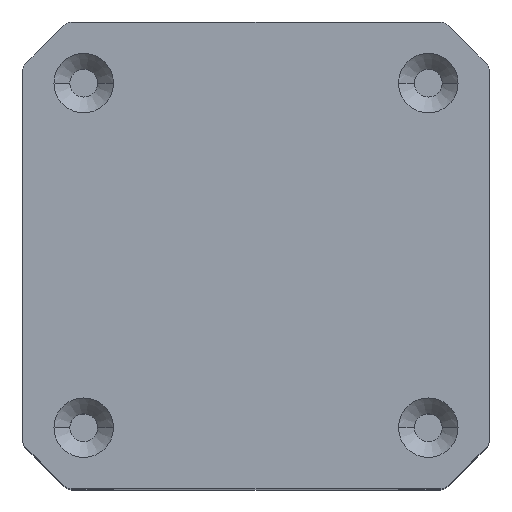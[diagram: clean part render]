
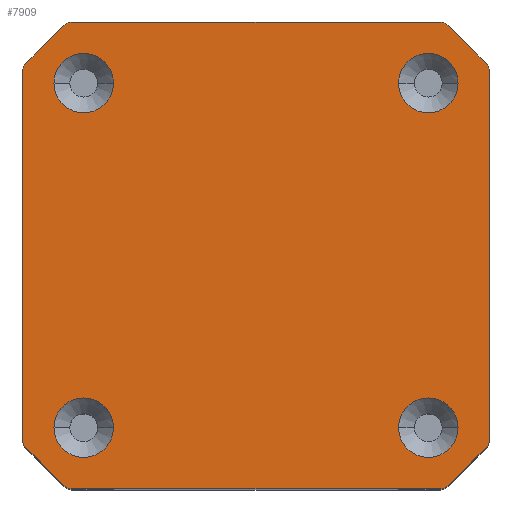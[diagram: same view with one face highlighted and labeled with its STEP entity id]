
A CAD part, top view. The second image highlights one B-rep face of the part: STEP entity #7909.
In plain terms, the highlighted planar face has unit normal (0, 0, 1).
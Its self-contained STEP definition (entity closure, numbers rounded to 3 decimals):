
#125=CARTESIAN_POINT('',(5.5,36.5,60.));
#126=DIRECTION('',(0.,0.,-1.));
#127=DIRECTION('',(-1.,0.,0.));
#128=AXIS2_PLACEMENT_3D('',#125,#126,#127);
#130=CARTESIAN_POINT('',(5.5,36.5,60.));
#131=DIRECTION('',(0.,0.,-1.));
#132=DIRECTION('',(1.,0.,0.));
#133=AXIS2_PLACEMENT_3D('',#130,#131,#132);
#135=CARTESIAN_POINT('',(36.5,36.5,60.));
#136=DIRECTION('',(0.,0.,-1.));
#137=DIRECTION('',(-1.,0.,0.));
#138=AXIS2_PLACEMENT_3D('',#135,#136,#137);
#140=CARTESIAN_POINT('',(36.5,36.5,60.));
#141=DIRECTION('',(0.,0.,-1.));
#142=DIRECTION('',(1.,0.,0.));
#143=AXIS2_PLACEMENT_3D('',#140,#141,#142);
#145=CARTESIAN_POINT('',(5.5,5.5,60.));
#146=DIRECTION('',(0.,0.,-1.));
#147=DIRECTION('',(-1.,0.,0.));
#148=AXIS2_PLACEMENT_3D('',#145,#146,#147);
#150=CARTESIAN_POINT('',(5.5,5.5,60.));
#151=DIRECTION('',(0.,0.,-1.));
#152=DIRECTION('',(1.,0.,0.));
#153=AXIS2_PLACEMENT_3D('',#150,#151,#152);
#155=CARTESIAN_POINT('',(36.5,5.5,60.));
#156=DIRECTION('',(0.,0.,-1.));
#157=DIRECTION('',(-1.,0.,0.));
#158=AXIS2_PLACEMENT_3D('',#155,#156,#157);
#160=CARTESIAN_POINT('',(36.5,5.5,60.));
#161=DIRECTION('',(0.,0.,-1.));
#162=DIRECTION('',(1.,0.,0.));
#163=AXIS2_PLACEMENT_3D('',#160,#161,#162);
#165=DIRECTION('',(-0.707,-0.707,0.));
#166=VECTOR('',#165,4.828);
#167=CARTESIAN_POINT('',(3.707,41.707,60.));
#168=LINE('',#167,#166);
#169=CARTESIAN_POINT('',(4.414,41.,60.));
#170=DIRECTION('',(0.,0.,1.));
#171=DIRECTION('',(0.,1.,0.));
#172=AXIS2_PLACEMENT_3D('',#169,#170,#171);
#174=DIRECTION('',(-1.,0.,0.));
#175=VECTOR('',#174,33.172);
#176=CARTESIAN_POINT('',(37.586,42.,60.));
#177=LINE('',#176,#175);
#178=CARTESIAN_POINT('',(37.586,41.,60.));
#179=DIRECTION('',(0.,0.,1.));
#180=DIRECTION('',(0.707,0.707,0.));
#181=AXIS2_PLACEMENT_3D('',#178,#179,#180);
#183=DIRECTION('',(-0.707,0.707,0.));
#184=VECTOR('',#183,4.828);
#185=CARTESIAN_POINT('',(41.707,38.293,60.));
#186=LINE('',#185,#184);
#187=CARTESIAN_POINT('',(41.,37.586,60.));
#188=DIRECTION('',(0.,0.,1.));
#189=DIRECTION('',(1.,0.,0.));
#190=AXIS2_PLACEMENT_3D('',#187,#188,#189);
#192=DIRECTION('',(0.,1.,0.));
#193=VECTOR('',#192,33.172);
#194=CARTESIAN_POINT('',(42.,4.414,60.));
#195=LINE('',#194,#193);
#196=CARTESIAN_POINT('',(41.,4.414,60.));
#197=DIRECTION('',(0.,0.,1.));
#198=DIRECTION('',(0.707,-0.707,0.));
#199=AXIS2_PLACEMENT_3D('',#196,#197,#198);
#201=DIRECTION('',(0.707,0.707,0.));
#202=VECTOR('',#201,4.828);
#203=CARTESIAN_POINT('',(38.293,0.293,60.));
#204=LINE('',#203,#202);
#205=CARTESIAN_POINT('',(37.586,1.,60.));
#206=DIRECTION('',(0.,0.,1.));
#207=DIRECTION('',(0.,-1.,0.));
#208=AXIS2_PLACEMENT_3D('',#205,#206,#207);
#210=DIRECTION('',(1.,0.,0.));
#211=VECTOR('',#210,33.172);
#212=CARTESIAN_POINT('',(4.414,0.,60.));
#213=LINE('',#212,#211);
#214=CARTESIAN_POINT('',(4.414,1.,60.));
#215=DIRECTION('',(0.,0.,1.));
#216=DIRECTION('',(-0.707,-0.707,0.));
#217=AXIS2_PLACEMENT_3D('',#214,#215,#216);
#219=DIRECTION('',(0.707,-0.707,0.));
#220=VECTOR('',#219,4.828);
#221=CARTESIAN_POINT('',(0.293,3.707,60.));
#222=LINE('',#221,#220);
#223=CARTESIAN_POINT('',(1.,4.414,60.));
#224=DIRECTION('',(0.,0.,1.));
#225=DIRECTION('',(-1.,0.,0.));
#226=AXIS2_PLACEMENT_3D('',#223,#224,#225);
#228=DIRECTION('',(0.,-1.,0.));
#229=VECTOR('',#228,33.172);
#230=CARTESIAN_POINT('',(0.,37.586,60.));
#231=LINE('',#230,#229);
#232=CARTESIAN_POINT('',(1.,37.586,60.));
#233=DIRECTION('',(0.,0.,1.));
#234=DIRECTION('',(-0.707,0.707,0.));
#235=AXIS2_PLACEMENT_3D('',#232,#233,#234);
#6646=CARTESIAN_POINT('',(3.707,41.707,60.));
#6647=CARTESIAN_POINT('',(0.293,38.293,60.));
#6648=VERTEX_POINT('',#6646);
#6649=VERTEX_POINT('',#6647);
#6650=CARTESIAN_POINT('',(0.,37.586,60.));
#6651=VERTEX_POINT('',#6650);
#6652=CARTESIAN_POINT('',(0.,4.414,60.));
#6653=VERTEX_POINT('',#6652);
#6654=CARTESIAN_POINT('',(0.293,3.707,60.));
#6655=VERTEX_POINT('',#6654);
#6656=CARTESIAN_POINT('',(3.707,0.293,60.));
#6657=VERTEX_POINT('',#6656);
#6658=CARTESIAN_POINT('',(4.414,0.,60.));
#6659=VERTEX_POINT('',#6658);
#6660=CARTESIAN_POINT('',(37.586,0.,60.));
#6661=VERTEX_POINT('',#6660);
#6662=CARTESIAN_POINT('',(38.293,0.293,60.));
#6663=VERTEX_POINT('',#6662);
#6664=CARTESIAN_POINT('',(41.707,3.707,60.));
#6665=VERTEX_POINT('',#6664);
#6666=CARTESIAN_POINT('',(42.,4.414,60.));
#6667=VERTEX_POINT('',#6666);
#6668=CARTESIAN_POINT('',(42.,37.586,60.));
#6669=VERTEX_POINT('',#6668);
#6670=CARTESIAN_POINT('',(41.707,38.293,60.));
#6671=VERTEX_POINT('',#6670);
#6672=CARTESIAN_POINT('',(38.293,41.707,60.));
#6673=VERTEX_POINT('',#6672);
#6674=CARTESIAN_POINT('',(37.586,42.,60.));
#6675=VERTEX_POINT('',#6674);
#6676=CARTESIAN_POINT('',(4.414,42.,60.));
#6677=VERTEX_POINT('',#6676);
#7602=CARTESIAN_POINT('',(8.174,36.5,60.));
#7603=VERTEX_POINT('',#7602);
#7604=CARTESIAN_POINT('',(2.826,36.5,60.));
#7605=VERTEX_POINT('',#7604);
#7606=CARTESIAN_POINT('',(39.174,36.5,60.));
#7607=VERTEX_POINT('',#7606);
#7608=CARTESIAN_POINT('',(33.826,36.5,60.));
#7609=VERTEX_POINT('',#7608);
#7610=CARTESIAN_POINT('',(8.174,5.5,60.));
#7611=VERTEX_POINT('',#7610);
#7612=CARTESIAN_POINT('',(2.826,5.5,60.));
#7613=VERTEX_POINT('',#7612);
#7614=CARTESIAN_POINT('',(39.174,5.5,60.));
#7615=VERTEX_POINT('',#7614);
#7616=CARTESIAN_POINT('',(33.826,5.5,60.));
#7617=VERTEX_POINT('',#7616);
#7847=CARTESIAN_POINT('',(0.,0.,60.));
#7848=DIRECTION('',(0.,0.,-1.));
#7849=DIRECTION('',(-1.,0.,0.));
#7850=AXIS2_PLACEMENT_3D('',#7847,#7848,#7849);
#7851=PLANE('',#7850);
#7853=ORIENTED_EDGE('',*,*,#7852,.F.);
#7855=ORIENTED_EDGE('',*,*,#7854,.F.);
#7856=ORIENTED_EDGE('',*,*,#7807,.F.);
#7858=ORIENTED_EDGE('',*,*,#7857,.F.);
#7860=ORIENTED_EDGE('',*,*,#7859,.F.);
#7862=ORIENTED_EDGE('',*,*,#7861,.F.);
#7864=ORIENTED_EDGE('',*,*,#7863,.F.);
#7866=ORIENTED_EDGE('',*,*,#7865,.F.);
#7868=ORIENTED_EDGE('',*,*,#7867,.F.);
#7870=ORIENTED_EDGE('',*,*,#7869,.F.);
#7872=ORIENTED_EDGE('',*,*,#7871,.F.);
#7874=ORIENTED_EDGE('',*,*,#7873,.F.);
#7876=ORIENTED_EDGE('',*,*,#7875,.F.);
#7878=ORIENTED_EDGE('',*,*,#7877,.F.);
#7880=ORIENTED_EDGE('',*,*,#7879,.F.);
#7882=ORIENTED_EDGE('',*,*,#7881,.F.);
#7883=EDGE_LOOP('',(#7853,#7855,#7856,#7858,#7860,#7862,#7864,#7866,#7868,#7870,
#7872,#7874,#7876,#7878,#7880,#7882));
#7884=FACE_OUTER_BOUND('',#7883,.F.);
#7886=ORIENTED_EDGE('',*,*,#7885,.F.);
#7888=ORIENTED_EDGE('',*,*,#7887,.F.);
#7889=EDGE_LOOP('',(#7886,#7888));
#7890=FACE_BOUND('',#7889,.F.);
#7892=ORIENTED_EDGE('',*,*,#7891,.F.);
#7894=ORIENTED_EDGE('',*,*,#7893,.F.);
#7895=EDGE_LOOP('',(#7892,#7894));
#7896=FACE_BOUND('',#7895,.F.);
#7898=ORIENTED_EDGE('',*,*,#7897,.F.);
#7900=ORIENTED_EDGE('',*,*,#7899,.F.);
#7901=EDGE_LOOP('',(#7898,#7900));
#7902=FACE_BOUND('',#7901,.F.);
#7904=ORIENTED_EDGE('',*,*,#7903,.F.);
#7906=ORIENTED_EDGE('',*,*,#7905,.F.);
#7907=EDGE_LOOP('',(#7904,#7906));
#7908=FACE_BOUND('',#7907,.F.);
#129=CIRCLE('',#128,2.674);
#134=CIRCLE('',#133,2.674);
#139=CIRCLE('',#138,2.674);
#144=CIRCLE('',#143,2.674);
#149=CIRCLE('',#148,2.674);
#154=CIRCLE('',#153,2.674);
#159=CIRCLE('',#158,2.674);
#164=CIRCLE('',#163,2.674);
#173=CIRCLE('',#172,1.);
#182=CIRCLE('',#181,1.);
#191=CIRCLE('',#190,1.);
#200=CIRCLE('',#199,1.);
#209=CIRCLE('',#208,1.);
#218=CIRCLE('',#217,1.);
#227=CIRCLE('',#226,1.);
#236=CIRCLE('',#235,1.);
#7807=EDGE_CURVE('',#6675,#6677,#177,.T.);
#7852=EDGE_CURVE('',#6648,#6649,#168,.T.);
#7854=EDGE_CURVE('',#6677,#6648,#173,.T.);
#7857=EDGE_CURVE('',#6673,#6675,#182,.T.);
#7859=EDGE_CURVE('',#6671,#6673,#186,.T.);
#7861=EDGE_CURVE('',#6669,#6671,#191,.T.);
#7863=EDGE_CURVE('',#6667,#6669,#195,.T.);
#7865=EDGE_CURVE('',#6665,#6667,#200,.T.);
#7867=EDGE_CURVE('',#6663,#6665,#204,.T.);
#7869=EDGE_CURVE('',#6661,#6663,#209,.T.);
#7871=EDGE_CURVE('',#6659,#6661,#213,.T.);
#7873=EDGE_CURVE('',#6657,#6659,#218,.T.);
#7875=EDGE_CURVE('',#6655,#6657,#222,.T.);
#7877=EDGE_CURVE('',#6653,#6655,#227,.T.);
#7879=EDGE_CURVE('',#6651,#6653,#231,.T.);
#7881=EDGE_CURVE('',#6649,#6651,#236,.T.);
#7885=EDGE_CURVE('',#7609,#7607,#139,.T.);
#7887=EDGE_CURVE('',#7607,#7609,#144,.T.);
#7891=EDGE_CURVE('',#7613,#7611,#149,.T.);
#7893=EDGE_CURVE('',#7611,#7613,#154,.T.);
#7897=EDGE_CURVE('',#7617,#7615,#159,.T.);
#7899=EDGE_CURVE('',#7615,#7617,#164,.T.);
#7903=EDGE_CURVE('',#7605,#7603,#129,.T.);
#7905=EDGE_CURVE('',#7603,#7605,#134,.T.);
#7909=ADVANCED_FACE('',(#7884,#7890,#7896,#7902,#7908),#7851,.F.);
